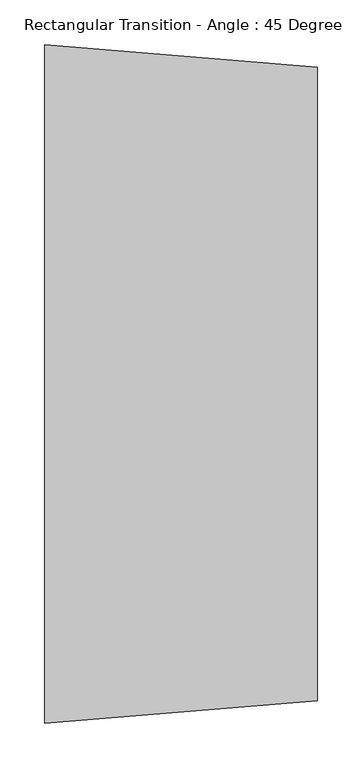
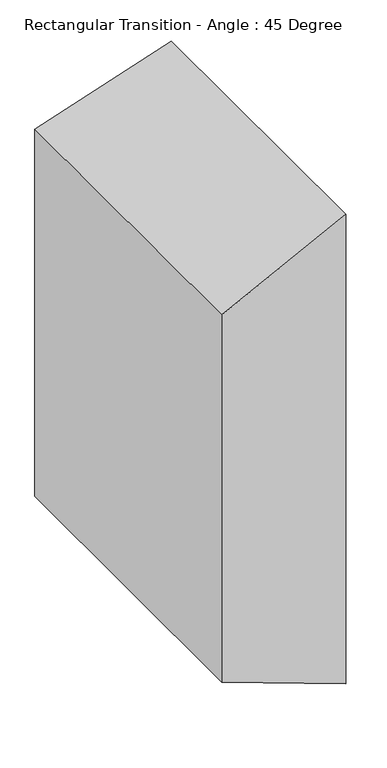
"""IFC4 building model written with IfcOpenShell, lengths in millimetres: duct fitting geometry, Rectangular Transition - Angle : 45 Degree."""

from ifc_helpers import new_model, si_unit, origin, place, context, project, spatial, faceted_brep, source, transform, mapped, element, save


def rectangular_transition_angle_45_degree_c59788f5(model_context):
    return source(origin(), model_context, "Body", "Brep", [
        faceted_brep([(306.6051224, -355.6, 584.2), (306.6051224, -355.6, -584.2), (306.6051224, 355.6, -584.2), (306.6051224, 355.6, 584.2), (0.0, -381.0, 457.2), (0.0, 381.0, 457.2), (0.0, 381.0, -457.2), (0.0, -381.0, -457.2)], [[[0, 1, 2, 3]], [[4, 5, 6, 7]], [[4, 7, 1, 0]], [[7, 6, 2, 1]], [[6, 5, 3, 2]], [[5, 4, 0, 3]]]),
    ])


if __name__ == "__main__":
    model = new_model("IFC4")
    model_context = context("Model", 3, world=origin())
    ifc_project = project(units=[si_unit("LENGTHUNIT", "METRE", prefix="MILLI")], contexts=[model_context])
    site = spatial("IfcSite", under=ifc_project)
    building = spatial("IfcBuilding", under=site)
    placement = place(None, origin())
    rectangular_transition_angle_45_degree_shape = rectangular_transition_angle_45_degree_c59788f5(model_context)
    element("IfcDuctFitting", 1, ObjectType="Rectangular Transition - Angle : 45 Degree", at=placement, inside=building, context=model_context, shape_type="MappedRepresentation", body=[
        mapped(rectangular_transition_angle_45_degree_shape, transform((0.0, 0.0, 0.0), x_axis=(1.0, 0.0, 0.0), y_axis=(0.0, 1.0, 0.0), z_axis=(0.0, 0.0, 1.0))),
    ])
    save(model, "model.ifc")
